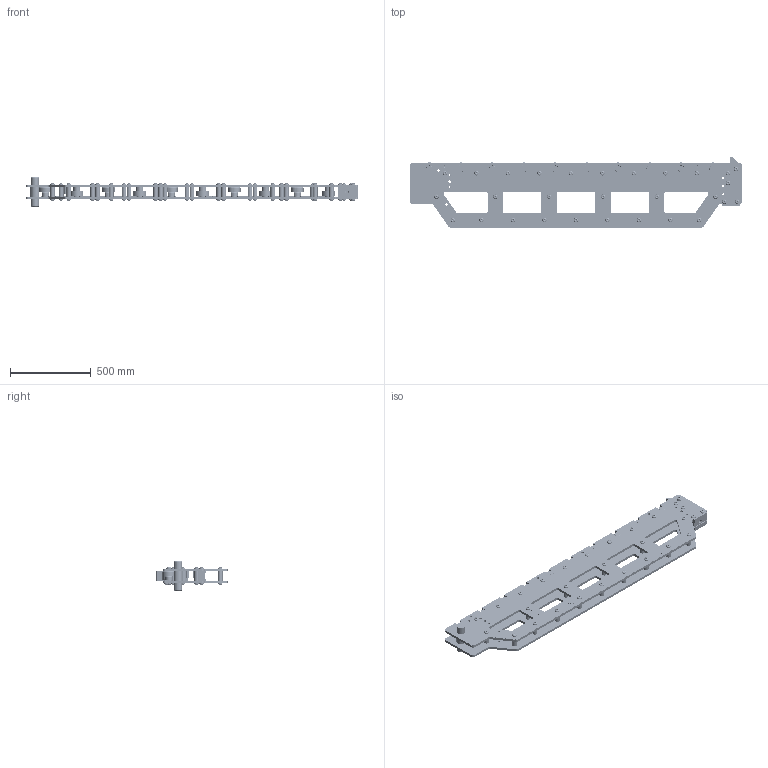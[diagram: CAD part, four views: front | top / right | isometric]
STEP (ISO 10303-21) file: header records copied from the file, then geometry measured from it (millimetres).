
FILE_DESCRIPTION(/* description */ ('CONSOLE PLATE'),/* implementation_level */ '2;1');
FILE_NAME(/* name */ 'C:\Users\jaccow\AppData\Local\Temp\Cadac\NetworkPub\step\FB970-950.iam.stp',/* time_stamp */ '2017-12-13T15:09:31+01:00',/* author */ ('Yue'),/* organization */ (''),/* preprocessor_version */ 'ST-DEVELOPER v16.1',/* originating_system */ 'Autodesk Inventor 2016',/* authorisation */ '');
FILE_SCHEMA (('AUTOMOTIVE_DESIGN { 1 0 10303 214 3 1 1 }'));
Products named in the file (17): FB971-101; FB774-101; FB776-104; EU080178-309; FB779-690; FB768-104; FB770-104; FB766-044; FB764-186; FB972-026; FB973-026; CBE1625-0281E; CAE1160-1081A; CY148-055; PP0489-996; FB1056-186; FB970-950
Assembly tree (132 placements, depth 2):
  FB970-950
    FB971-101  x2
    FB774-101  x2
    FB776-104  x10
    EU080178-309  x10
    FB779-690
    FB768-104
    FB770-104
    FB766-044
    FB764-186  x26
    FB972-026
    FB973-026
    CBE1625-0281E  x62
    CAE1160-1081A  x4
    CY148-055  x4
    PP0489-996  x2
    FB1056-186  x4
Bounding box: 2057 x 440.02 x 180 mm (x, y, z)
Volume: 23006314.7 mm3; surface area: 4941522.6 mm2
Topology: 178 solids, 178 shells, 4454 faces, 10854 edges, 7107 vertices
Faces by surface type: plane 2529, cylinder 785, bspline 638, cone 258, torus 244
Full cylindrical faces by diameter (mm): 3 x10, 4.005 x10, 11 x4, 12.8 x8, 13 x8, 13.835 x33, 15 x4, 16 x66, 16.5 x68, 17 x6, 19 x2, 20 x4, 21.5 x1, 26 x2, 28 x62, 29.95 x1, 30 x32, 30.1 x1, 32 x24, 40 x22, 45 x10, 49.56 x10, 50 x4, 55 x1, 57.57 x10, 66 x40, 69.5 x20, 80 x10
Entity records: 86297 total; most frequent: CARTESIAN_POINT 24156, ORIENTED_EDGE 13210, DIRECTION 9980, EDGE_CURVE 6596, LINE 4700, VECTOR 4700, VERTEX_POINT 4480, EDGE_LOOP 3105
